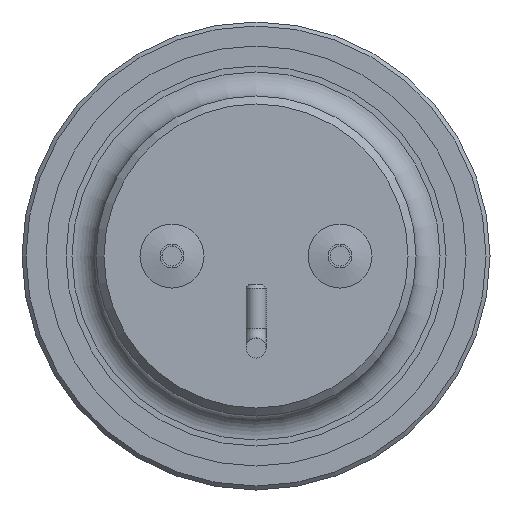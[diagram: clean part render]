
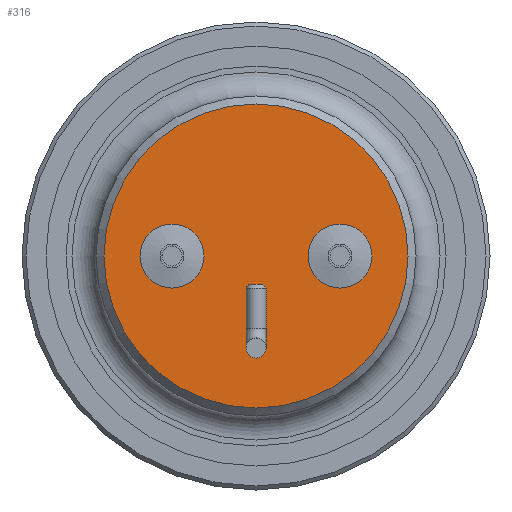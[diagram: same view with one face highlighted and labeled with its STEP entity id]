
A CAD part, front view. The second image highlights one B-rep face of the part: STEP entity #316.
In plain terms, the highlighted planar face has unit normal (0, -1, 0).
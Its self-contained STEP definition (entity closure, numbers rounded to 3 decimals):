
#2 = AXIS2_PLACEMENT_3D ( 'NONE', #194, #796, #270 ) ;
#34 = CIRCLE ( 'NONE', #664, 0.8 ) ;
#167 = PLANE ( 'NONE',  #319 ) ;
#177 = EDGE_LOOP ( 'NONE', ( #1016 ) ) ;
#194 = CARTESIAN_POINT ( 'NONE',  ( -2.1, 0., 0. ) ) ;
#243 = CARTESIAN_POINT ( 'NONE',  ( 0., 0., 0. ) ) ;
#270 = DIRECTION ( 'NONE',  ( 1., 0., 0. ) ) ;
#316 = ADVANCED_FACE ( 'NONE', ( #718, #876, #670 ), #167, .F. ) ;
#319 = AXIS2_PLACEMENT_3D ( 'NONE', #862, #505, #683 ) ;
#345 = CIRCLE ( 'NONE', #2, 0.8 ) ;
#361 = CARTESIAN_POINT ( 'NONE',  ( -3.8, 0., 0. ) ) ;
#365 = CARTESIAN_POINT ( 'NONE',  ( -1.3, 0., 0. ) ) ;
#418 = VERTEX_POINT ( 'NONE', #361 ) ;
#441 = VERTEX_POINT ( 'NONE', #719 ) ;
#466 = CARTESIAN_POINT ( 'NONE',  ( 2.1, 0., 0. ) ) ;
#500 = EDGE_CURVE ( 'NONE', #441, #441, #34, .T. ) ;
#504 = CIRCLE ( 'NONE', #548, 3.8 ) ;
#505 = DIRECTION ( 'NONE',  ( 0., 1., 0. ) ) ;
#508 = DIRECTION ( 'NONE',  ( -1., 0., 0. ) ) ;
#548 = AXIS2_PLACEMENT_3D ( 'NONE', #243, #774, #508 ) ;
#580 = EDGE_CURVE ( 'NONE', #418, #418, #504, .T. ) ;
#664 = AXIS2_PLACEMENT_3D ( 'NONE', #466, #817, #723 ) ;
#670 = FACE_OUTER_BOUND ( 'NONE', #177, .T. ) ;
#683 = DIRECTION ( 'NONE',  ( -1., 0., 0. ) ) ;
#718 = FACE_BOUND ( 'NONE', #885, .T. ) ;
#719 = CARTESIAN_POINT ( 'NONE',  ( 2.9, 0., 0. ) ) ;
#723 = DIRECTION ( 'NONE',  ( 1., 0., 0. ) ) ;
#753 = ORIENTED_EDGE ( 'NONE', *, *, #1089, .F. ) ;
#770 = ORIENTED_EDGE ( 'NONE', *, *, #500, .F. ) ;
#774 = DIRECTION ( 'NONE',  ( 0., -1., 0. ) ) ;
#796 = DIRECTION ( 'NONE',  ( 0., -1., 0. ) ) ;
#803 = VERTEX_POINT ( 'NONE', #365 ) ;
#817 = DIRECTION ( 'NONE',  ( 0., -1., 0. ) ) ;
#858 = EDGE_LOOP ( 'NONE', ( #753 ) ) ;
#862 = CARTESIAN_POINT ( 'NONE',  ( 4., 0., 0. ) ) ;
#876 = FACE_BOUND ( 'NONE', #858, .T. ) ;
#885 = EDGE_LOOP ( 'NONE', ( #770 ) ) ;
#1016 = ORIENTED_EDGE ( 'NONE', *, *, #580, .T. ) ;
#1089 = EDGE_CURVE ( 'NONE', #803, #803, #345, .T. ) ;
